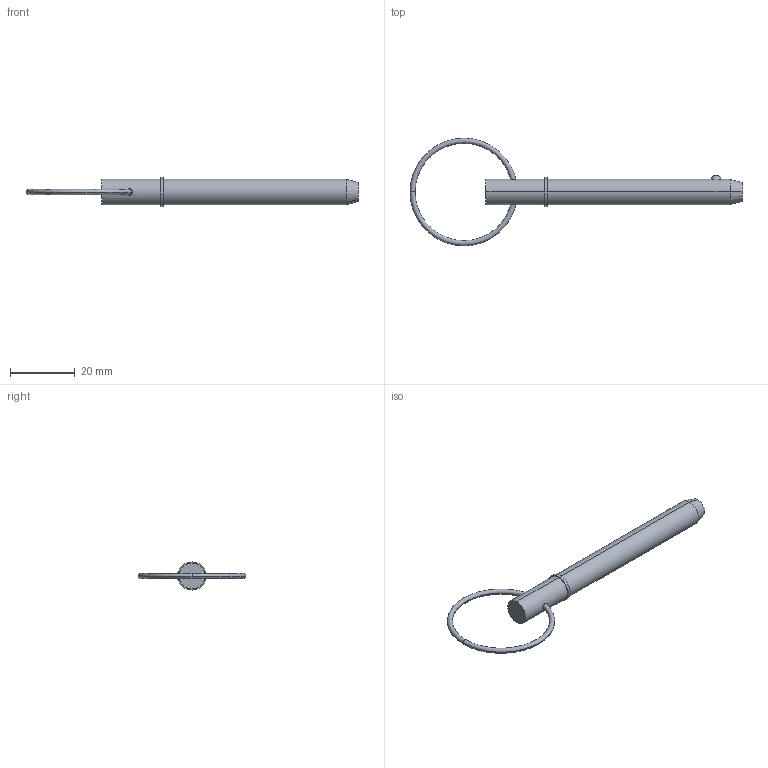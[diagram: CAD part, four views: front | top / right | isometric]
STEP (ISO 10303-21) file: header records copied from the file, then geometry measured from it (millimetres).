
FILE_DESCRIPTION (( 'STEP AP203' ), '1' );
FILE_NAME ('33016.W3120.step', '2024-11-07T11:03:40', ( '' ), ( '' ), 'SwSTEP 2.0', 'SolidWorks 2019', '' );
FILE_SCHEMA (( 'CONFIG_CONTROL_DESIGN' ));
Length unit declared in the file: millimetre
Products named in the file (3): Part1_33016.W3120; Part2_33016.W3120; 33016.W3120
Assembly tree (2 placements, depth 2):
  33016.W3120
    Part1_33016.W3120
    Part2_33016.W3120
Bounding box: 102.92 x 33.34 x 8.73 mm (x, y, z)
Volume: 4075 mm3; surface area: 2617.2 mm2
Topology: 2 solids, 2 shells, 22 faces, 43 edges, 26 vertices
Faces by surface type: torus 8, cylinder 6, plane 4, sphere 2, cone 2
Entity records: 989 total; most frequent: CARTESIAN_POINT 212, DIRECTION 120, ORIENTED_EDGE 86, AXIS2_PLACEMENT_3D 56, EDGE_CURVE 43, CIRCLE 29, EDGE_LOOP 27, VERTEX_POINT 26
